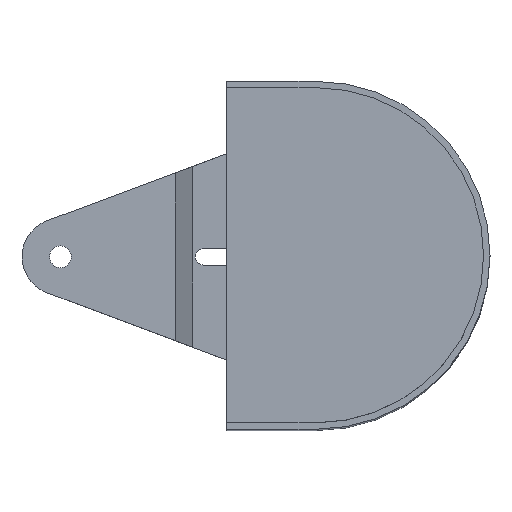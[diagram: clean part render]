
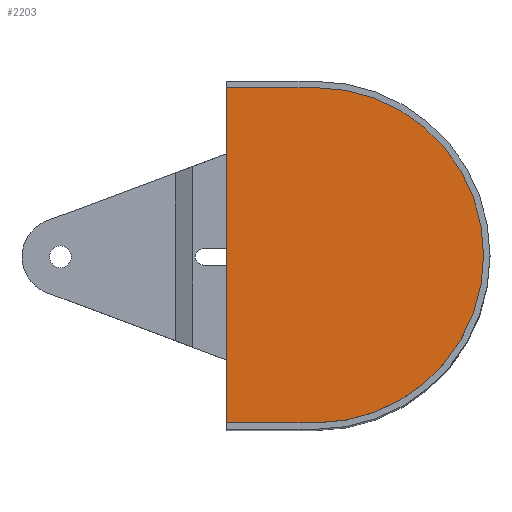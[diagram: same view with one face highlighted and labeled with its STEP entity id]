
A CAD part, top view. The second image highlights one B-rep face of the part: STEP entity #2203.
In plain terms, the highlighted planar face has unit normal (0, 0, 1).
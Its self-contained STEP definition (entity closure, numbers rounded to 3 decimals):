
#93 = VERTEX_POINT ( 'NONE', #1032 ) ;
#123 = CARTESIAN_POINT ( 'NONE',  ( -68., 65.5, 173. ) ) ;
#295 = CARTESIAN_POINT ( 'NONE',  ( -68., 0., 173. ) ) ;
#303 = DIRECTION ( 'NONE',  ( 1., 0., 0. ) ) ;
#443 = CARTESIAN_POINT ( 'NONE',  ( -103., 65.5, 173. ) ) ;
#487 = ORIENTED_EDGE ( 'NONE', *, *, #1463, .T. ) ;
#498 = DIRECTION ( 'NONE',  ( -1., 0., 0. ) ) ;
#636 = ORIENTED_EDGE ( 'NONE', *, *, #2324, .T. ) ;
#669 = DIRECTION ( 'NONE',  ( 0., 0., 1. ) ) ;
#701 = LINE ( 'NONE', #722, #1955 ) ;
#706 = LINE ( 'NONE', #443, #844 ) ;
#714 = CARTESIAN_POINT ( 'NONE',  ( -68., 65.5, 173. ) ) ;
#722 = CARTESIAN_POINT ( 'NONE',  ( -103., -65.5, 173. ) ) ;
#733 = AXIS2_PLACEMENT_3D ( 'NONE', #1384, #1768, #2136 ) ;
#815 = FACE_OUTER_BOUND ( 'NONE', #2049, .T. ) ;
#844 = VECTOR ( 'NONE', #2150, 1000. ) ;
#903 = CARTESIAN_POINT ( 'NONE',  ( -103., -65.5, 173. ) ) ;
#1032 = CARTESIAN_POINT ( 'NONE',  ( -68., -65.5, 173. ) ) ;
#1051 = PLANE ( 'NONE',  #733 ) ;
#1183 = VERTEX_POINT ( 'NONE', #903 ) ;
#1298 = CARTESIAN_POINT ( 'NONE',  ( -103., 65.5, 173. ) ) ;
#1321 = CIRCLE ( 'NONE', #2109, 65.5 ) ;
#1329 = VERTEX_POINT ( 'NONE', #1298 ) ;
#1384 = CARTESIAN_POINT ( 'NONE',  ( -68., 0., 173. ) ) ;
#1463 = EDGE_CURVE ( 'NONE', #93, #1608, #1321, .T. ) ;
#1603 = DIRECTION ( 'NONE',  ( 1., 0., 0. ) ) ;
#1608 = VERTEX_POINT ( 'NONE', #714 ) ;
#1724 = ORIENTED_EDGE ( 'NONE', *, *, #2200, .T. ) ;
#1757 = LINE ( 'NONE', #123, #1844 ) ;
#1768 = DIRECTION ( 'NONE',  ( 0., 0., 1. ) ) ;
#1844 = VECTOR ( 'NONE', #498, 1000. ) ;
#1870 = ORIENTED_EDGE ( 'NONE', *, *, #2158, .T. ) ;
#1955 = VECTOR ( 'NONE', #1603, 1000. ) ;
#2049 = EDGE_LOOP ( 'NONE', ( #1724, #1870, #636, #487 ) ) ;
#2109 = AXIS2_PLACEMENT_3D ( 'NONE', #295, #669, #303 ) ;
#2136 = DIRECTION ( 'NONE',  ( 1., 0., 0. ) ) ;
#2150 = DIRECTION ( 'NONE',  ( 0., -1., 0. ) ) ;
#2158 = EDGE_CURVE ( 'NONE', #1329, #1183, #706, .T. ) ;
#2200 = EDGE_CURVE ( 'NONE', #1608, #1329, #1757, .T. ) ;
#2203 = ADVANCED_FACE ( 'NONE', ( #815 ), #1051, .T. ) ;
#2324 = EDGE_CURVE ( 'NONE', #1183, #93, #701, .T. ) ;
